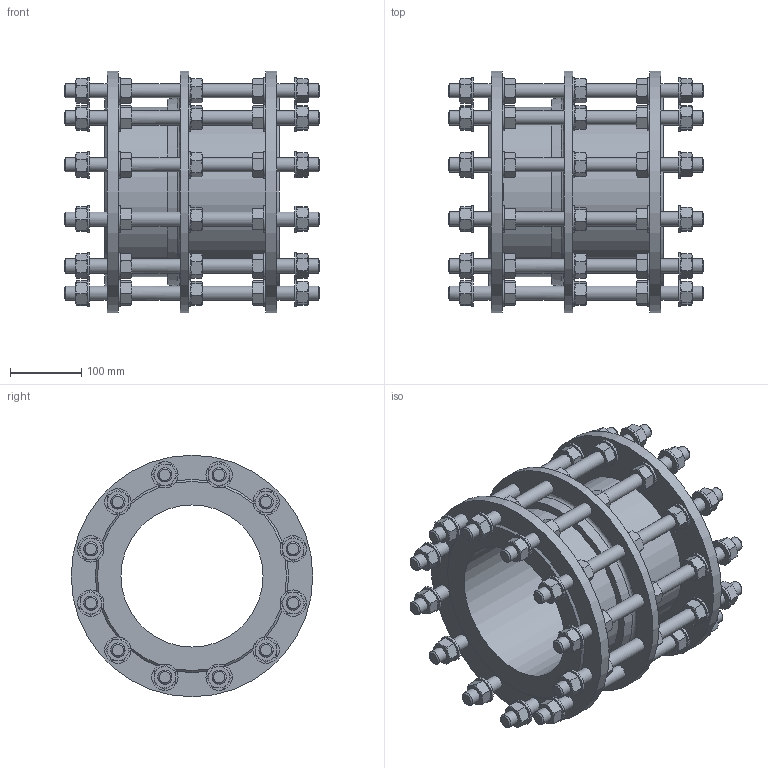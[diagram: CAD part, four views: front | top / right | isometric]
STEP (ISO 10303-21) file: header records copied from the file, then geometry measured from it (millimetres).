
FILE_DESCRIPTION (( 'STEP AP203' ), '1' );
FILE_NAME ('O_265_910_DN200_1XXXXX00_L=245_REV01.step', '2024-10-11T08:49:00', ( '' ), ( '' ), 'SwSTEP 2.0', 'SolidWorks 2022', '' );
FILE_SCHEMA (( 'CONFIG_CONTROL_DESIGN' ));
Products named in the file (1): O_265_910_DN200_1XXXXX00_L=245_REV01
Bounding box: 360 x 340 x 340 mm (x, y, z)
Volume: 6304443 mm3; surface area: 971172.6 mm2
Topology: 1 solids, 1 shells, 1464 faces, 3214 edges, 1919 vertices
Faces by surface type: cone 747, plane 576, cylinder 140, torus 1
Full cylindrical faces by diameter (mm): 20 x72, 37 x60, 200 x1, 213 x1, 239 x1, 340 x3
Entity records: 44328 total; most frequent: CARTESIAN_POINT 15494, ORIENTED_EDGE 5922, DIRECTION 5481, EDGE_CURVE 2961, AXIS2_PLACEMENT_3D 2507, EDGE_LOOP 1847, VERTEX_POINT 1832, FACE_OUTER_BOUND 1603
